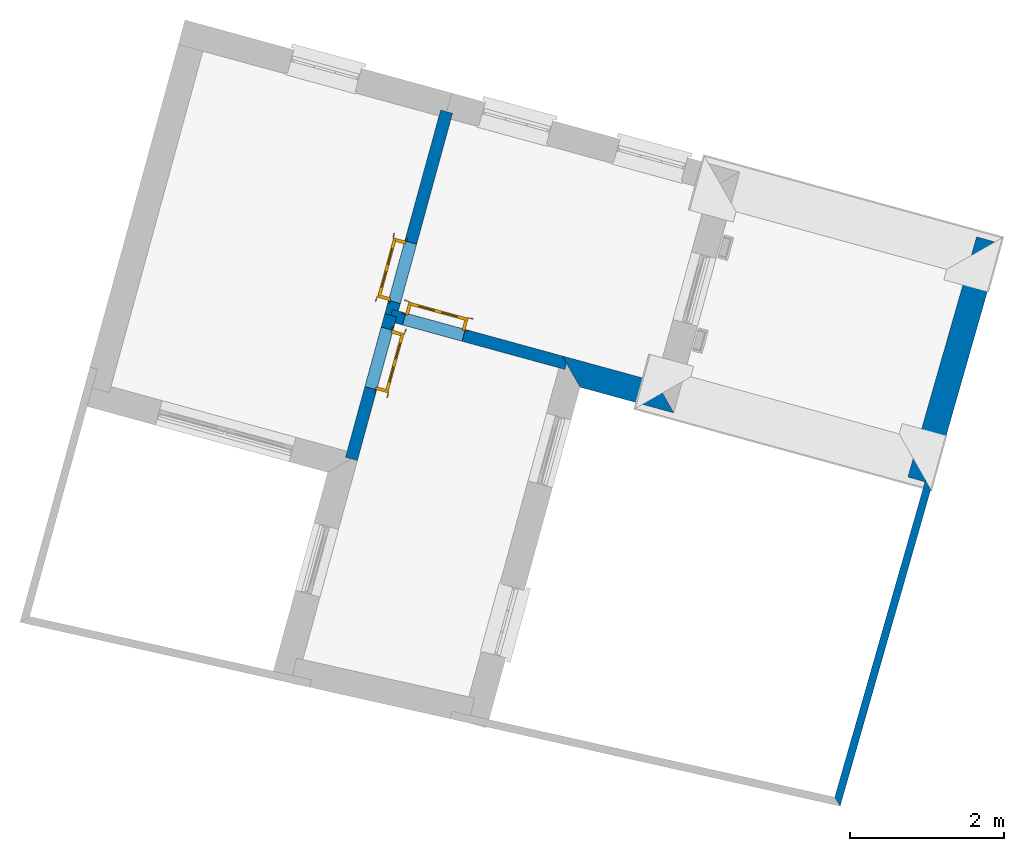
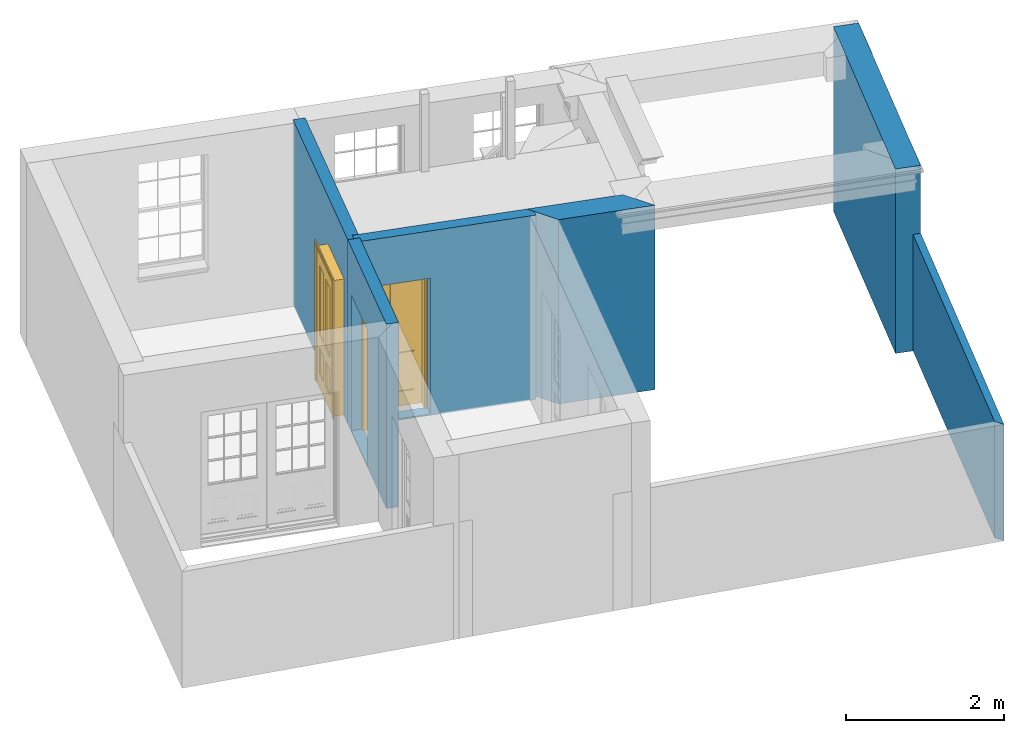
# One storey, part 4 of 7: 6 walls, 3 doors, 3 openings.
"""IFC4 building model written with IfcOpenShell, lengths in metres."""

import ifcopenshell
import ifcopenshell.guid

model = None  # the IFC model being written
_history = None  # IfcOwnerHistory: only IFC2X3 demands one
_inside = {}  # id of a spatial element -> (the spatial element, [elements in it])
_under = {}  # id of a project, library or spatial element -> (it, [spatial elements below it])
_declared = {}  # id of a project -> (the project, [libraries it declares])
_typed = {}  # id of a type object -> (the type object, [elements of that type])
_made_of = {}  # id of a material, layer set ... -> (it, [elements and type objects made of it])


def new_model(schema):
    """Start an empty IFC model of exactly this schema.

    Asked for "IFC4X3", IfcOpenShell would pick the latest addendum, in which some entities
    have other attributes; the version numbers below select the first issue.
    IFC2X3 requires an IfcOwnerHistory on every rooted entity: one is made here for all.
    """
    global model, _history
    if schema == "IFC4X3":
        model = ifcopenshell.file(schema_version=(4, 3, 0, 0))
    else:
        model = ifcopenshell.file(schema=schema)
    _inside.clear()
    _under.clear()
    _declared.clear()
    _typed.clear()
    _made_of.clear()
    _history = None
    if model.schema == "IFC2X3":
        org = make("IfcOrganization", Name="unknown")
        user = make(
            "IfcPersonAndOrganization",
            ThePerson=make("IfcPerson", FamilyName="unknown"),
            TheOrganization=org,
        )
        app = make(
            "IfcApplication",
            ApplicationDeveloper=org,
            Version="unknown",
            ApplicationFullName="unknown",
            ApplicationIdentifier="unknown",
        )
        _history = make(
            "IfcOwnerHistory",
            OwningUser=user,
            OwningApplication=app,
            ChangeAction="ADDED",
            CreationDate=0,
        )
    return model


def make(cls, **values):
    """One entity of the class cls with the attributes given. An attribute that is None is left unset."""
    return model.create_entity(
        cls, **{name: value for name, value in values.items() if value is not None}
    )


def rooted(cls, **values):
    """An entity with a GlobalId (a new one), such as an element, a storey or a relation."""
    return make(cls, GlobalId=ifcopenshell.guid.new(), OwnerHistory=_history, **values)


def si_unit(unit_type, name, prefix=None):
    """IfcSIUnit, for example si_unit("LENGTHUNIT", "METRE", prefix="MILLI")."""
    return make("IfcSIUnit", UnitType=unit_type, Prefix=prefix, Name=name)


def assignment(units):
    """IfcUnitAssignment: the units of a project."""
    return None if units is None else make("IfcUnitAssignment", Units=units)


def point(xyz):
    """IfcCartesianPoint."""
    return None if xyz is None else make("IfcCartesianPoint", Coordinates=xyz)


def direction(xyz):
    """IfcDirection."""
    return None if xyz is None else make("IfcDirection", DirectionRatios=xyz)


def frame(location, z_axis=None, x_axis=None):
    """IfcAxis2Placement3D, a coordinate frame: its origin and axes. An axis left out is left unset."""
    return make(
        "IfcAxis2Placement3D",
        Location=point(location),
        Axis=direction(z_axis),
        RefDirection=direction(x_axis),
    )


def origin():
    """The frame at (0, 0, 0) with its axes left unset."""
    return frame((0.0, 0.0, 0.0))


def origin_with_axes():
    """The frame at (0, 0, 0) with the z axis (0, 0, 1) and the x axis (1, 0, 0) written out."""
    return frame((0.0, 0.0, 0.0), z_axis=(0.0, 0.0, 1.0), x_axis=(1.0, 0.0, 0.0))


def place(relative_to, where):
    """IfcLocalPlacement: puts the frame where relative to a parent placement (None: the world)."""
    return make(
        "IfcLocalPlacement", PlacementRelTo=relative_to, RelativePlacement=where
    )


def context(
    kind, dimensions, precision=None, world=None, true_north=None, identifier=None
):
    """IfcGeometricRepresentationContext, for example the 3D "Model" context."""
    return make(
        "IfcGeometricRepresentationContext",
        ContextIdentifier=identifier,
        ContextType=kind,
        CoordinateSpaceDimension=dimensions,
        Precision=precision,
        WorldCoordinateSystem=world,
        TrueNorth=true_north,
    )


def subcontext(parent, identifier, kind, view, scale=None):
    """IfcGeometricRepresentationSubContext, for example "Body" below "Model"."""
    return make(
        "IfcGeometricRepresentationSubContext",
        ContextIdentifier=identifier,
        ContextType=kind,
        ParentContext=parent,
        TargetScale=scale,
        TargetView=view,
    )


def project(units=None, contexts=None):
    """IfcProject with its units and contexts."""
    return rooted(
        "IfcProject",
        Name="project",
        RepresentationContexts=contexts,
        UnitsInContext=assignment(units),
    )


def spatial(cls, under=None, at=None, **own):
    """A site, building, storey or space (cls), placed at a placement, below another one or the project."""
    s = rooted(cls, ObjectPlacement=at, **own)
    if under is not None:
        _under.setdefault(under.id(), (under, []))[1].append(s)
    return s


def polyline(points):
    """IfcPolyline through the points."""
    return make("IfcPolyline", Points=[point(p) for p in points])


def outline(outer, holes=None, kind="AREA"):
    """IfcArbitraryClosedProfileDef: a profile drawn as a closed curve; with holes, ...WithVoids."""
    if holes is None:
        return make("IfcArbitraryClosedProfileDef", ProfileType=kind, OuterCurve=outer)
    return make(
        "IfcArbitraryProfileDefWithVoids",
        ProfileType=kind,
        OuterCurve=outer,
        InnerCurves=holes,
    )


def extrude(swept, where, along, depth):
    """IfcExtrudedAreaSolid: the profile swept, set in the frame where, extruded along a direction by depth."""
    return make(
        "IfcExtrudedAreaSolid",
        SweptArea=swept,
        Position=where,
        ExtrudedDirection=direction(along),
        Depth=depth,
    )


def faces_of(points, faces, orient=None, outer=None):
    """IfcFace entities. A face is a list of loops; a loop is a list of indices into points, from 0.

    orient and outer hold one flag for each loop. By default every Orientation is true, the
    first loop of a face is its IfcFaceOuterBound and the others are IfcFaceBound.
    """
    made = []
    for i, loops in enumerate(faces):
        bounds = []
        for j, loop in enumerate(loops):
            is_outer = j == 0 if outer is None else outer[i][j]
            bounds.append(
                make(
                    "IfcFaceOuterBound" if is_outer else "IfcFaceBound",
                    Bound=make("IfcPolyLoop", Polygon=[points[k] for k in loop]),
                    Orientation=True if orient is None else orient[i][j],
                )
            )
        made.append(make("IfcFace", Bounds=bounds))
    return made


def faceted_brep(points, faces, orient=None, outer=None, voids=None):
    """IfcFacetedBrep: a solid bounded by flat faces; with voids (closed shells), ...WithVoids."""
    shared = [point(p) for p in points]
    hull = make("IfcClosedShell", CfsFaces=faces_of(shared, faces, orient, outer))
    if voids is None:
        return make("IfcFacetedBrep", Outer=hull)
    return make(
        "IfcFacetedBrepWithVoids",
        Outer=hull,
        Voids=[
            make(cls, CfsFaces=faces_of(shared, fs, o, b)) for cls, fs, o, b in voids
        ],
    )


def shape(context_of_items, identifier, shape_type, items):
    """IfcShapeRepresentation: the items that make up one representation, for example the "Body"."""
    return make(
        "IfcShapeRepresentation",
        ContextOfItems=context_of_items,
        RepresentationIdentifier=identifier,
        RepresentationType=shape_type,
        Items=items,
    )


def source(mapping_origin, context_of_items, identifier, shape_type, items):
    """IfcRepresentationMap: a shape defined once, which mapped items show again and again."""
    return make(
        "IfcRepresentationMap",
        MappingOrigin=mapping_origin,
        MappedRepresentation=shape(context_of_items, identifier, shape_type, items),
    )


def transform(
    local_origin,
    x_axis=None,
    y_axis=None,
    z_axis=None,
    scale=None,
    scale2=None,
    scale3=None,
    uniform=True,
):
    """IfcCartesianTransformationOperator3D, or its non-uniform kind. x_axis, y_axis, z_axis: its Axis1, 2, 3."""
    if uniform:
        return make(
            "IfcCartesianTransformationOperator3D",
            Axis1=direction(x_axis),
            Axis2=direction(y_axis),
            LocalOrigin=point(local_origin),
            Scale=scale,
            Axis3=direction(z_axis),
        )
    return make(
        "IfcCartesianTransformationOperator3DnonUniform",
        Axis1=direction(x_axis),
        Axis2=direction(y_axis),
        LocalOrigin=point(local_origin),
        Scale=scale,
        Axis3=direction(z_axis),
        Scale2=scale2,
        Scale3=scale3,
    )


def mapped(mapping_source, mapping_target):
    """IfcMappedItem: shows the shape of a source again, moved by a transform."""
    return make(
        "IfcMappedItem", MappingSource=mapping_source, MappingTarget=mapping_target
    )


def material(Name=None, Category=None):
    """IfcMaterial."""
    return make("IfcMaterial", Name=Name, Category=Category)


def layer(
    of_material, thickness, ventilated=None, Name=None, Category=None, Priority=None
):
    """IfcMaterialLayer: one layer of a wall or slab, of a material (None: an air gap)."""
    return make(
        "IfcMaterialLayer",
        Material=of_material,
        LayerThickness=thickness,
        IsVentilated=ventilated,
        Name=Name,
        Category=Category,
        Priority=Priority,
    )


def layer_set(layers, Name=None):
    """IfcMaterialLayerSet."""
    return make("IfcMaterialLayerSet", MaterialLayers=layers, LayerSetName=Name)


def layer_usage(for_layer_set, set_direction, sense, offset, extent=None):
    """IfcMaterialLayerSetUsage: how a layer set lies in its element."""
    return make(
        "IfcMaterialLayerSetUsage",
        ForLayerSet=for_layer_set,
        LayerSetDirection=set_direction,
        DirectionSense=sense,
        OffsetFromReferenceLine=offset,
        ReferenceExtent=extent,
    )


def made_of(thing, what):
    """Note that an element or type object is made of a material, layer set ...; save() writes the relation."""
    if what is not None:
        _made_of.setdefault(what.id(), (what, []))[1].append(thing)
    return thing


def type_object(cls, material=None, **own):
    """A type object (cls), such as IfcWallType, which elements share."""
    return made_of(rooted(cls, **own), material)


def type_shapes(of_type, sources):
    """Give a type object the sources (RepresentationMaps) that its elements show as mapped items."""
    of_type.RepresentationMaps = sources


def element(
    cls,
    number,
    at=None,
    inside=None,
    cuts=None,
    type_object=None,
    material=None,
    context=None,
    identifier="Body",
    shape_type=None,
    held_by="IfcProductDefinitionShape",
    body=None,
    shapes=None,
    **own,
):
    """One element of the class cls, such as IfcWall. Its Tag is "e" and its number.

    at: its placement. inside: the storey or other place that contains it. cuts: it is an
    opening in that element (IfcRelVoidsElement). A single representation is given by context,
    identifier, shape_type and body (its items); several are given by shapes. held_by: the class
    of the entity that holds the representations. save() writes the other relations.
    """
    e = rooted(cls, Tag="e%d" % number, ObjectPlacement=at, **own)
    if body is not None:
        shapes = [shape(context, identifier, shape_type, body)]
    if shapes is not None:
        e.Representation = make(held_by, Representations=shapes)
    if inside is not None:
        _inside.setdefault(inside.id(), (inside, []))[1].append(e)
    if cuts is not None:
        rooted(
            "IfcRelVoidsElement", RelatingBuildingElement=cuts, RelatedOpeningElement=e
        )
    if type_object is not None:
        _typed.setdefault(type_object.id(), (type_object, []))[1].append(e)
    return made_of(e, material)


def fill(opening, filler):
    """IfcRelFillsElement: the door or window that sits in an opening."""
    return rooted(
        "IfcRelFillsElement",
        RelatingOpeningElement=opening,
        RelatedBuildingElement=filler,
    )


def aggregate(whole, parts):
    """IfcRelAggregates: a whole, such as a stair, and the parts it consists of."""
    return rooted("IfcRelAggregates", RelatingObject=whole, RelatedObjects=parts)


def save(model, path):
    """Write the relations noted so far, then the file.

    IfcRelAggregates (storeys below a building ...), IfcRelContainedInSpatialStructure (elements
    in a storey), IfcRelDefinesByType, IfcRelAssociatesMaterial and IfcRelDeclares: one each for
    every whole, place, type object, material and project.
    """
    for whole, parts in _under.values():
        aggregate(whole, parts)
    for where, things in _inside.values():
        rooted(
            "IfcRelContainedInSpatialStructure",
            RelatedElements=things,
            RelatingStructure=where,
        )
    for kind, things in _typed.values():
        rooted("IfcRelDefinesByType", RelatedObjects=things, RelatingType=kind)
    for what, things in _made_of.values():
        rooted("IfcRelAssociatesMaterial", RelatedObjects=things, RelatingMaterial=what)
    for by, libraries in _declared.values():
        rooted("IfcRelDeclares", RelatingContext=by, RelatedDefinitions=libraries)
    model.write(path)


model = new_model("IFC4")

# Units and contexts
model_context = context("Model", 3, world=origin_with_axes())
body_context = subcontext(model_context, "Body", "Model", "MODEL_VIEW")
ifc_project = project(units=[si_unit("PLANEANGLEUNIT", "RADIAN"), si_unit("MASSUNIT", "GRAM", prefix="KILO"), si_unit("FORCEUNIT", "NEWTON", prefix="KILO"), si_unit("LENGTHUNIT", "METRE"), si_unit("AREAUNIT", "SQUARE_METRE"), si_unit("VOLUMEUNIT", "CUBIC_METRE")], contexts=[model_context, model_context])

# Sites, building, storey
site_1_placement = place(None, origin_with_axes())
site_1 = spatial("IfcSite", under=ifc_project, at=site_1_placement, Name="Tamar")
site_2_placement = place(site_1_placement, origin_with_axes())
site_2 = spatial("IfcSite", under=site_1, at=site_2_placement, Name="Site plot-29", CompositionType="ELEMENT")
building_placement = place(None, origin_with_axes())
building = spatial("IfcBuilding", under=site_2, at=building_placement, Name="Building plot-29", CompositionType="ELEMENT")
storey_placement = place(None, frame((0.0, 0.0, 25.0), z_axis=(0.0, 0.0, 1.0), x_axis=(1.0, 0.0, 0.0)))
storey = spatial("IfcBuildingStorey", under=building, at=storey_placement, Name="plot-29 0", CompositionType="ELEMENT", Elevation=25.0)

# Walls
ifc_material_1 = material(Name="Masonry")
ifc_layer_1 = layer(ifc_material_1, 0.33, ventilated=False)
ifc_layer_set_1 = layer_set([ifc_layer_1], Name="exterior_0.08_0.25")
ifc_layer_usage_1 = layer_usage(ifc_layer_set_1, "AXIS2", "POSITIVE", -0.25)
wall_type_1 = type_object("IfcWallType", Name="exterior_0.08_0.25", PredefinedType="SOLIDWALL", material=ifc_layer_set_1)
wall_1_placement = place(storey_placement, frame((275.841180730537, 261.90733006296, 0.0), z_axis=(0.0, 0.0, 1.0), x_axis=(0.964452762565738, -0.264255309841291, 0.0)))
element("IfcWall", 1, at=wall_1_placement, inside=storey, type_object=wall_type_1, material=ifc_layer_usage_1, Name="exterior", context=body_context, shape_type="SweptSolid", body=[
    extrude(outline(polyline([(-0.0799999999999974, 0.0800000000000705), (0.249999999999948, -0.249999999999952), (1.51011429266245, -0.249999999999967), (1.18011429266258, 0.0800000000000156), (-0.0799999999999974, 0.0800000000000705)])), origin_with_axes(), (0.0, 0.0, 1.0), 2.85),
])
ifc_material_2 = material(Name="Masonry")
ifc_layer_2 = layer(ifc_material_2, 0.33, ventilated=False)
ifc_layer_set_2 = layer_set([ifc_layer_2], Name="party_0.08_0.25")
ifc_layer_usage_2 = layer_usage(ifc_layer_set_2, "AXIS2", "POSITIVE", -0.25)
wall_type_2 = type_object("IfcWallType", Name="party_0.08_0.25", PredefinedType="SOLIDWALL", material=ifc_layer_set_2)
wall_2_placement = place(storey_placement, frame((280.413857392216, 260.654439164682, 0.0), z_axis=(0.0, 0.0, 1.0), x_axis=(0.275095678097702, 0.961416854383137, 0.0)))
element("IfcWall", 2, at=wall_2_placement, inside=storey, type_object=wall_type_2, material=ifc_layer_usage_2, Name="party", context=body_context, shape_type="SweptSolid", body=[
    extrude(outline(polyline([(-0.249999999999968, 0.0800000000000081), (-0.24999999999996, -0.249999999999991), (2.98927929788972, -0.24999999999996), (2.98927929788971, 0.0800000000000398), (-0.249999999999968, 0.0800000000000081)])), origin_with_axes(), (0.0, 0.0, 1.0), 2.85),
])

# Wall, opening, door
ifc_material_3 = material(Name="Masonry")
ifc_layer_3 = layer(ifc_material_3, 0.16, ventilated=False)
ifc_layer_set_3 = layer_set([ifc_layer_3], Name="interior_0.08_0.08")
ifc_layer_usage_3 = layer_usage(ifc_layer_set_3, "AXIS2", "POSITIVE", -0.08)
wall_type_3 = type_object("IfcWallType", Name="interior_0.08_0.08", PredefinedType="SOLIDWALL", material=ifc_layer_set_3)
wall_3_placement = place(storey_placement, frame((273.561502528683, 262.531950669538, 0.0), z_axis=(0.0, 0.0, 1.0), x_axis=(-0.264255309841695, -0.964452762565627, 0.0)))
wall_3 = element("IfcWall", 3, at=wall_3_placement, inside=storey, type_object=wall_type_3, material=ifc_layer_usage_3, Name="interior", context=body_context, shape_type="SweptSolid", body=[
    extrude(outline(polyline([(1.79620354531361e-14, 0.0799999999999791), (-1.80073597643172e-14, -0.0799999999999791), (1.92994079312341, -0.0799999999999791), (1.92994079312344, 0.0799999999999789), (1.79620354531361e-14, 0.0799999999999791)])), origin_with_axes(), (0.0, 0.0, 1.0), 2.85),
])
opening_1_placement = place(wall_3_placement, frame((0.18000000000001, 0.0, 0.0199999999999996)))
opening_1 = element("IfcOpeningElement", 4, at=opening_1_placement, cuts=wall_3, Name="My Opening", ObjectType="Opening", context=body_context, shape_type="SweptSolid", body=[
    extrude(outline(polyline([(0.0, -0.100000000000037), (0.79999999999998, -0.100000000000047), (0.79999999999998, 1.09999999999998), (1.66533453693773e-16, 1.09999999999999), (0.0, -0.100000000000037)])), origin_with_axes(), (0.0, 0.0, 1.0), 2.1),
])
door_type = type_object("IfcDoorType", Name="door_inside", OperationType="SINGLE_SWING_LEFT", PredefinedType="NOTDEFINED")
shared_shape = source(origin(), body_context, "Body", "Brep", [
    faceted_brep([(0.773, 0.33, 1.895), (0.66, 0.33, 1.895), (0.66, 0.33, 2.073), (0.773, 0.33, 2.073), (0.773, 0.33, 0.82), (0.66, 0.33, 0.82), (0.45, 0.33, 1.895), (0.45, 0.33, 2.073), (0.773, 0.33, 0.62), (0.66, 0.33, 0.62), (0.66, 0.315, 0.82), (0.66, 0.315, 1.895), (0.45, 0.315, 1.895), (0.35, 0.33, 1.895), (0.35, 0.33, 2.073), (0.773, 0.33, 0.225), (0.66, 0.33, 0.225), (0.45, 0.33, 0.62), (0.45, 0.33, 0.82), (0.45, 0.315, 0.82), (0.35, 0.33, 0.82), (0.14, 0.33, 2.073), (0.14, 0.33, 1.895), (0.773, 0.33, 0.0), (0.66, 0.33, 0.0), (0.66, 0.315, 0.225), (0.66, 0.315, 0.62), (0.45, 0.315, 0.62), (0.35, 0.33, 0.62), (0.35, 0.315, 0.82), (0.35, 0.315, 1.895), (0.14, 0.315, 1.895), (0.027, 0.33, 2.073), (0.027, 0.33, 1.895), (0.773, 0.292, 0.0), (0.66, 0.292, 0.0), (0.45, 0.33, 0.0), (0.45, 0.33, 0.225), (0.45, 0.315, 0.225), (0.35, 0.33, 0.225), (0.14, 0.33, 0.82), (0.14, 0.33, 0.62), (0.14, 0.315, 0.82), (0.027, 0.33, 0.82), (0.773, 0.292, 0.225), (0.66, 0.292, 0.225), (0.45, 0.292, 0.0), (0.35, 0.33, 0.0), (0.35, 0.315, 0.225), (0.35, 0.315, 0.62), (0.14, 0.315, 0.62), (0.027, 0.33, 0.62), (0.773, 0.292, 0.62), (0.66, 0.292, 0.62), (0.45, 0.292, 0.225), (0.35, 0.292, 0.0), (0.14, 0.33, 0.225), (0.14, 0.33, 0.0), (0.14, 0.315, 0.225), (0.027, 0.33, 0.225), (0.773, 0.292, 0.82), (0.66, 0.292, 0.82), (0.66, 0.307, 0.62), (0.66, 0.307, 0.225), (0.45, 0.307, 0.225), (0.35, 0.292, 0.225), (0.14, 0.292, 0.0), (0.027, 0.33, 0.0), (0.773, 0.292, 1.895), (0.66, 0.292, 1.895), (0.45, 0.292, 0.62), (0.45, 0.292, 0.82), (0.45, 0.307, 0.62), (0.35, 0.292, 0.62), (0.14, 0.292, 0.225), (0.027, 0.292, 0.0), (0.773, 0.292, 2.073), (0.66, 0.292, 2.073), (0.66, 0.307, 1.895), (0.66, 0.307, 0.82), (0.45, 0.307, 0.82), (0.35, 0.292, 0.82), (0.35, 0.307, 0.62), (0.35, 0.307, 0.225), (0.14, 0.307, 0.225), (0.027, 0.292, 0.225), (0.45, 0.292, 1.895), (0.45, 0.292, 2.073), (0.45, 0.307, 1.895), (0.35, 0.292, 1.895), (0.14, 0.292, 0.82), (0.14, 0.292, 0.62), (0.14, 0.307, 0.62), (0.027, 0.292, 0.62), (0.35, 0.292, 2.073), (0.35, 0.307, 1.895), (0.35, 0.307, 0.82), (0.14, 0.307, 0.82), (0.027, 0.292, 0.82), (0.14, 0.292, 2.073), (0.14, 0.292, 1.895), (0.14, 0.307, 1.895), (0.027, 0.292, 1.895), (0.027, 0.292, 2.073), (0.02, 0.335, 0.0), (0.005, 0.34, 0.0), (0.005, 0.34, 2.095), (0.02, 0.335, 2.08), (0.02, 0.33, 0.0), (0.0, 0.335, 0.0), (0.0, 0.335, 2.1), (0.795, 0.34, 2.095), (0.78, 0.335, 2.08), (0.02, 0.33, 2.08), (0.0, 0.33, 0.0), (-0.032, 0.345, 0.0), (-0.032, 0.345, 2.132), (0.8, 0.335, 2.1), (0.795, 0.34, 0.0), (0.78, 0.335, 0.0), (0.78, 0.33, 2.08), (0.04, 0.29, 0.0), (0.025, 0.29, 0.0), (0.025, 0.29, 2.075), (0.04, 0.29, 2.06), (-0.04, 0.34, 0.0), (-0.04, 0.34, 2.14), (0.832, 0.345, 2.132), (0.8, 0.335, 0.0), (0.78, 0.33, 0.0), (0.8, 0.33, 0.0), (0.86, 0.33, 0.0), (0.86, 0.33, 2.16), (0.8, 0.33, 2.1), (-0.06, 0.33, 2.16), (0.0, 0.33, 2.1), (-0.06, 0.33, 0.0), (-0.04, 0.345, 0.0), (-0.04, 0.345, 2.14), (0.84, 0.34, 2.14), (0.832, 0.345, 0.0), (0.84, 0.34, 0.0), (0.86, 0.345, 0.0), (0.86, 0.345, 2.16), (-0.06, 0.345, 2.16), (-0.06, 0.345, 0.0), (0.84, 0.345, 0.0), (0.84, 0.345, 2.14), (-0.025, 0.155, 0.0), (-0.025, 0.16, 0.0), (-0.025, 0.16, 2.125), (-0.025, 0.155, 2.125), (-0.017, 0.155, 0.0), (-0.017, 0.155, 2.117), (0.825, 0.16, 2.125), (0.825, 0.155, 2.125), (0.825, 0.155, 0.0), (0.845, 0.155, 0.0), (-0.045, 0.155, 2.145), (-0.045, 0.155, 0.0), (0.845, 0.155, 2.145), (0.015, 0.165, 0.0), (0.015, 0.165, 2.085), (0.817, 0.155, 2.117), (0.825, 0.16, 0.0), (0.845, 0.17, 0.0), (0.845, 0.17, 2.145), (-0.045, 0.17, 2.145), (-0.045, 0.17, 0.0), (0.02, 0.16, 0.0), (0.02, 0.16, 2.08), (0.785, 0.165, 2.085), (0.817, 0.155, 0.0), (0.8, 0.17, 0.0), (0.8, 0.17, 2.1), (0.0, 0.17, 2.1), (0.0, 0.17, 0.0), (0.035, 0.165, 0.0), (0.035, 0.165, 2.065), (0.78, 0.16, 2.08), (0.785, 0.165, 0.0), (0.775, 0.29, 2.075), (0.76, 0.29, 2.06), (0.035, 0.17, 2.065), (0.035, 0.17, 0.0), (0.765, 0.165, 2.065), (0.78, 0.16, 0.0), (0.765, 0.17, 0.0), (0.765, 0.17, 2.065), (0.765, 0.165, 0.0), (0.04, 0.17, 2.06), (0.04, 0.17, 0.0), (0.76, 0.17, 2.06), (0.76, 0.17, 0.0), (0.76, 0.29, 0.0), (0.775, 0.29, 0.0), (0.025, 0.33, 0.0), (0.025, 0.33, 2.075), (0.775, 0.33, 0.0), (0.775, 0.33, 2.075)], [[[0, 1, 2, 3]], [[1, 0, 4, 5]], [[1, 6, 7, 2]], [[8, 9, 5, 4]], [[1, 5, 10, 11]], [[6, 1, 11, 12]], [[6, 13, 14, 7]], [[15, 16, 9, 8]], [[9, 17, 18, 5]], [[5, 18, 19, 10]], [[10, 19, 12, 11]], [[18, 6, 12, 19]], [[18, 20, 13, 6]], [[21, 14, 13, 22]], [[23, 24, 16, 15]], [[9, 16, 25, 26]], [[17, 9, 26, 27]], [[17, 28, 20, 18]], [[13, 20, 29, 30]], [[22, 13, 30, 31]], [[32, 21, 22, 33]], [[34, 35, 24, 23]], [[24, 36, 37, 16]], [[16, 37, 38, 25]], [[25, 38, 27, 26]], [[37, 17, 27, 38]], [[37, 39, 28, 17]], [[40, 20, 28, 41]], [[20, 40, 42, 29]], [[31, 30, 29, 42]], [[40, 22, 31, 42]], [[33, 22, 40, 43]], [[35, 34, 44, 45]], [[35, 46, 36, 24]], [[36, 47, 39, 37]], [[28, 39, 48, 49]], [[41, 28, 49, 50]], [[43, 40, 41, 51]], [[45, 44, 52, 53]], [[46, 35, 45, 54]], [[46, 55, 47, 36]], [[56, 39, 47, 57]], [[39, 56, 58, 48]], [[50, 49, 48, 58]], [[56, 41, 50, 58]], [[51, 41, 56, 59]], [[53, 52, 60, 61]], [[45, 53, 62, 63]], [[54, 45, 63, 64]], [[55, 46, 54, 65]], [[55, 66, 57, 47]], [[59, 56, 57, 67]], [[61, 60, 68, 69]], [[70, 53, 61, 71]], [[53, 70, 72, 62]], [[72, 64, 63, 62]], [[70, 54, 64, 72]], [[65, 54, 70, 73]], [[65, 74, 66, 55]], [[67, 57, 66, 75]], [[69, 68, 76, 77]], [[61, 69, 78, 79]], [[71, 61, 79, 80]], [[73, 70, 71, 81]], [[65, 73, 82, 83]], [[74, 65, 83, 84]], [[74, 85, 75, 66]], [[86, 69, 77, 87]], [[69, 86, 88, 78]], [[88, 80, 79, 78]], [[86, 71, 80, 88]], [[81, 71, 86, 89]], [[73, 81, 90, 91]], [[73, 91, 92, 82]], [[83, 82, 92, 84]], [[91, 74, 84, 92]], [[91, 93, 85, 74]], [[89, 86, 87, 94]], [[81, 89, 95, 96]], [[90, 81, 96, 97]], [[90, 98, 93, 91]], [[94, 99, 100, 89]], [[89, 100, 101, 95]], [[101, 97, 96, 95]], [[100, 90, 97, 101]], [[100, 102, 98, 90]], [[99, 103, 102, 100]], [[32, 103, 99, 21]], [[102, 103, 32, 33]], [[98, 102, 33, 43]], [[21, 99, 94, 14]], [[94, 87, 7, 14]], [[7, 87, 77, 2]], [[76, 3, 2, 77]], [[43, 51, 93, 98]], [[51, 59, 85, 93]], [[67, 75, 85, 59]], [[34, 23, 15, 44]], [[44, 15, 8, 52]], [[52, 8, 4, 60]], [[0, 68, 60, 4]], [[0, 3, 76, 68]], [[104, 105, 106, 107]], [[104, 108, 109, 105]], [[105, 109, 110, 106]], [[107, 106, 111, 112]], [[107, 113, 108, 104]], [[114, 109, 108]], [[109, 115, 116, 110]], [[106, 110, 117, 111]], [[112, 111, 118, 119]], [[113, 107, 112, 120]], [[121, 122, 123, 124]], [[115, 109, 114, 125]], [[115, 125, 126, 116]], [[110, 116, 127, 117]], [[111, 117, 128, 118]], [[118, 128, 129, 119]], [[120, 112, 119, 129]], [[130, 129, 128]], [[130, 131, 132, 133]], [[133, 132, 134, 135]], [[135, 134, 136, 114]], [[136, 125, 114]], [[125, 137, 138, 126]], [[116, 126, 139, 127]], [[117, 127, 140, 128]], [[141, 130, 128, 140]], [[131, 130, 141]], [[131, 142, 143, 132]], [[132, 143, 144, 134]], [[134, 144, 145, 136]], [[137, 125, 136, 145]], [[143, 142, 146]], [[143, 146, 147]], [[137, 145, 144]], [[143, 147, 138]], [[138, 137, 144]], [[143, 138, 144]], [[126, 138, 147, 139]], [[127, 139, 141, 140]], [[142, 131, 141, 146]], [[139, 147, 146, 141]], [[148, 149, 150, 151]], [[149, 152, 153, 150]], [[151, 150, 154, 155]], [[155, 156, 157]], [[158, 159, 148]], [[158, 148, 151]], [[155, 157, 160]], [[158, 151, 155]], [[155, 160, 158]], [[152, 161, 162, 153]], [[150, 153, 163, 154]], [[155, 154, 164, 156]], [[156, 164, 165, 157]], [[157, 165, 166, 160]], [[160, 166, 167, 158]], [[158, 167, 168, 159]], [[161, 169, 170, 162]], [[153, 162, 171, 163]], [[154, 163, 172, 164]], [[165, 164, 173]], [[165, 173, 174, 166]], [[166, 174, 175, 167]], [[167, 175, 176, 168]], [[169, 177, 178, 170]], [[162, 170, 179, 171]], [[163, 171, 180, 172]], [[172, 180, 173, 164]], [[124, 123, 181, 182]], [[183, 178, 177, 184]], [[170, 178, 185, 179]], [[171, 179, 186, 180]], [[187, 173, 180]], [[185, 188, 187, 189]], [[188, 185, 178, 183]], [[179, 185, 189, 186]], [[189, 187, 180, 186]], [[190, 183, 184, 191]], [[192, 188, 183, 190]], [[191, 184, 122, 121]], [[124, 190, 191, 121]], [[193, 187, 188, 192]], [[182, 192, 190, 124]], [[184, 176, 122]], [[194, 195, 187, 193]], [[192, 182, 194, 193]], [[161, 176, 184]], [[114, 108, 122, 176]], [[173, 187, 195]], [[152, 149, 176, 161]], [[169, 161, 184, 177]], [[196, 122, 108]], [[176, 175, 135, 114]], [[173, 195, 129, 130]], [[176, 149, 168]], [[123, 122, 196, 197]], [[196, 108, 113, 197]], [[175, 174, 133, 135]], [[198, 129, 195]], [[133, 174, 173, 130]], [[159, 168, 149, 148]], [[181, 123, 197, 199]], [[197, 113, 120, 199]], [[199, 120, 129, 198]], [[195, 181, 199, 198]], [[195, 194, 182, 181]]]),
])
type_shapes(door_type, [shared_shape])
door_1_placement = place(storey_placement, frame((273.417491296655, 262.38477470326, 0.0199999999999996), z_axis=(0.0, 0.0, 1.0), x_axis=(-0.211404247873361, -0.77156221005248, 0.0)))
door_1 = element("IfcDoor", 5, at=door_1_placement, inside=storey, type_object=door_type, Name="kitchen living inside door", OverallHeight=2.1, OverallWidth=0.8, context=body_context, shape_type="MappedRepresentation", body=[
    mapped(shared_shape, transform((0.0, 0.0, 0.0), scale=1.0)),
])
fill(opening_1, door_1)

wall_4_placement = place(storey_placement, frame((273.561502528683, 262.531950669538, 0.0), z_axis=(0.0, 0.0, 1.0), x_axis=(0.964452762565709, -0.264255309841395, 0.0)))
wall_4 = element("IfcWall", 6, at=wall_4_placement, inside=storey, type_object=wall_type_3, material=ifc_layer_usage_3, Name="interior", context=body_context, shape_type="SweptSolid", body=[
    extrude(outline(polyline([(-2.69246710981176e-14, 0.0800000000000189), (2.69148739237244e-14, -0.0800000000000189), (2.36370125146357, -0.0800000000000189), (2.36370125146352, 0.0800000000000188), (-2.69246710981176e-14, 0.0800000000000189)])), origin_with_axes(), (0.0, 0.0, 1.0), 2.85),
])
opening_2_placement = place(wall_4_placement, frame((0.180000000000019, 0.0, 0.0199999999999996)))
opening_2 = element("IfcOpeningElement", 7, at=opening_2_placement, cuts=wall_4, Name="My Opening", ObjectType="Opening", context=body_context, shape_type="SweptSolid", body=[
    extrude(outline(polyline([(0.0, -0.100000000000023), (0.80000000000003, -0.100000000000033), (0.79999999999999, 1.1), (-3.95239396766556e-14, 1.10000000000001), (0.0, -0.100000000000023)])), origin_with_axes(), (0.0, 0.0, 1.0), 2.1),
])
door_2_placement = place(storey_placement, frame((273.708678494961, 262.38793943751, 0.0199999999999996), z_axis=(0.0, 0.0, 1.0), x_axis=(0.771562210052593, -0.211404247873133, 0.0)))
door_2 = element("IfcDoor", 8, at=door_2_placement, inside=storey, type_object=door_type, Name="kitchen inside door", OverallHeight=2.1, OverallWidth=0.8, context=body_context, shape_type="MappedRepresentation", body=[
    mapped(shared_shape, transform((0.0, 0.0, 0.0), scale=1.0)),
])
fill(opening_2, door_2)

wall_5_placement = place(storey_placement, frame((273.561502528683, 262.531950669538, 0.0), z_axis=(0.0, 0.0, 1.0), x_axis=(0.264255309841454, 0.964452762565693, 0.0)))
wall_5 = element("IfcWall", 9, at=wall_5_placement, inside=storey, type_object=wall_type_3, material=ifc_layer_usage_3, Name="interior", context=body_context, shape_type="SweptSolid", body=[
    extrude(outline(polyline([(-3.18274159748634e-14, 0.0800000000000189), (3.18372131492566e-14, -0.0800000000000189), (2.73910572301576, -0.0800000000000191), (2.7391057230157, 0.0800000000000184), (-3.18274159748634e-14, 0.0800000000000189)])), origin_with_axes(), (0.0, 0.0, 1.0), 2.85),
])
opening_3_placement = place(wall_5_placement, frame((0.17999999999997, 0.0, 0.0199999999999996)))
opening_3 = element("IfcOpeningElement", 10, at=opening_3_placement, cuts=wall_5, Name="My Opening", ObjectType="Opening", context=body_context, shape_type="SweptSolid", body=[
    extrude(outline(polyline([(0.0, -0.100000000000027), (0.800000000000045, -0.100000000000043), (0.800000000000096, 1.10000000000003), (5.12090370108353e-14, 1.10000000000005), (0.0, -0.100000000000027)])), origin_with_axes(), (0.0, 0.0, 1.0), 2.1),
])
door_3_placement = place(storey_placement, frame((273.705513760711, 262.679126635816, 0.0199999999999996), z_axis=(0.0, 0.0, 1.0), x_axis=(0.21140424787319, 0.771562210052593, 0.0)))
door_3 = element("IfcDoor", 11, at=door_3_placement, inside=storey, type_object=door_type, Name="living inside door", OverallHeight=2.1, OverallWidth=0.8, context=body_context, shape_type="MappedRepresentation", body=[
    mapped(shared_shape, transform((0.0, 0.0, 0.0), scale=1.0)),
])
fill(opening_3, door_3)

# Wall
ifc_material_4 = material(Name="Masonry")
ifc_layer_4 = layer(ifc_material_4, 0.1, ventilated=False)
ifc_layer_set_4 = layer_set([ifc_layer_4], Name="fence_-0.15_0.25")
ifc_layer_usage_4 = layer_usage(ifc_layer_set_4, "AXIS2", "POSITIVE", -0.25)
wall_type_4 = type_object("IfcWallType", Name="fence_-0.15_0.25", PredefinedType="SOLIDWALL", material=ifc_layer_set_4)
wall_6_placement = place(storey_placement, frame((279.214063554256, 256.461345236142, 0.0), z_axis=(0.0, 0.0, 1.0), x_axis=(0.275095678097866, 0.96141685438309, 0.0)))
element("IfcWall", 12, at=wall_6_placement, inside=storey, type_object=wall_type_4, material=ifc_layer_usage_4, Name="fence", context=body_context, shape_type="SweptSolid", body=[
    extrude(outline(polyline([(-0.141536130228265, -0.150000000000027), (-0.23589355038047, -0.250000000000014), (4.61136927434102, -0.249999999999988), (4.61136927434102, -0.150000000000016), (-0.141536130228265, -0.150000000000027)])), origin_with_axes(), (0.0, 0.0, 1.0), 1.8),
])

save(model, "model.ifc")
